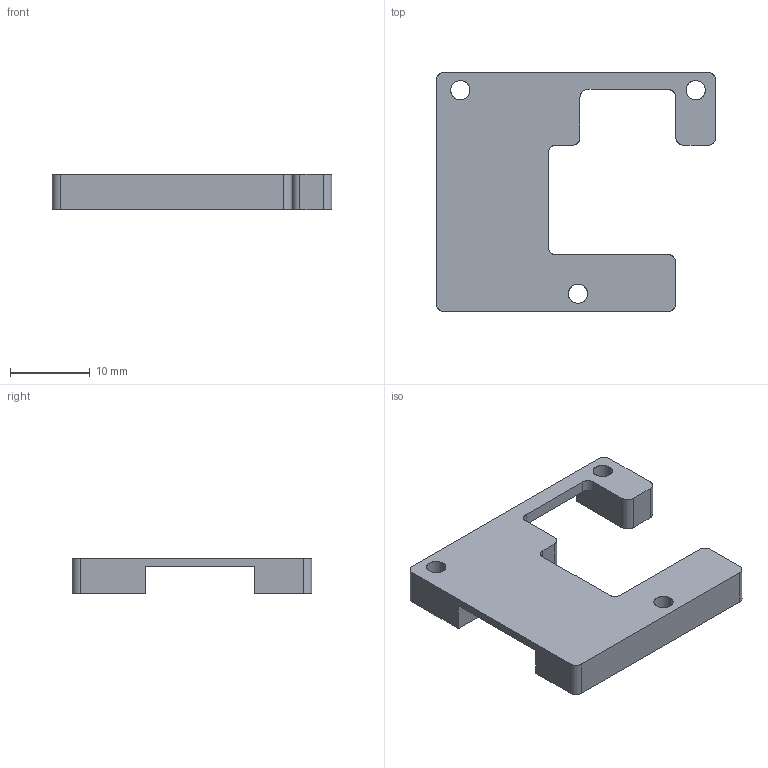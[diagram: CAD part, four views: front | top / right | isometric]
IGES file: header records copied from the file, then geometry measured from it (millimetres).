
Start section: SolidWorks IGES file using analytic representation for surfaces
Global section: file name: G:\My Drive\Bubble Gripper Doc Update\punyo.tech parts\V1.1\Pressure Sensor Board Top.IGS; native system: SolidWorks 2022; preprocessor: SolidWorks 2022; author: Jarod Wilson; date: 230329.154522; units: millimetre
Bounding box: 35 x 30 x 4.5 mm (x, y, z)
Surface area: 2075.4 mm2 (no closed solid volume)
Topology: 0 solids, 0 shells, 36 faces, 552 edges, 552 vertices
Faces by surface type: revolution 18, bspline 18
